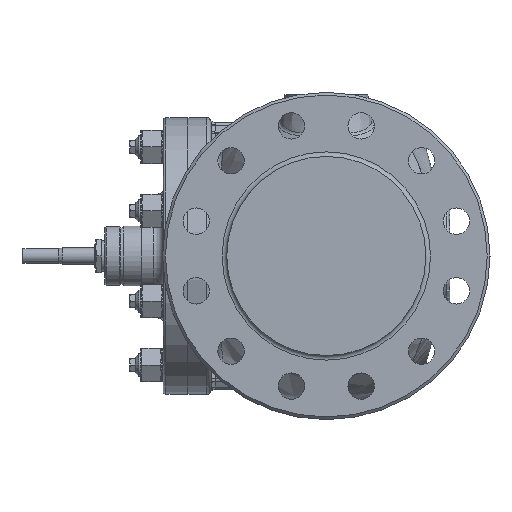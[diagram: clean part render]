
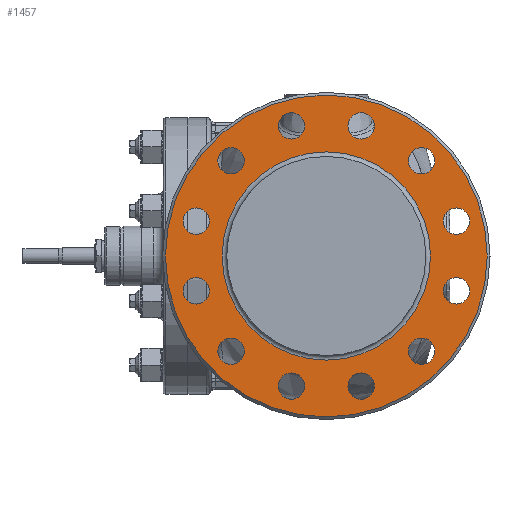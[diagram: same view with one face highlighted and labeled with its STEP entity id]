
A CAD part, left-side view. The second image highlights one B-rep face of the part: STEP entity #1457.
In plain terms, the highlighted planar face has unit normal (-1, 0, 0).
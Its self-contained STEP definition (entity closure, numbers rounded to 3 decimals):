
#572=FACE_BOUND('',#2735,.T.);
#573=FACE_BOUND('',#2736,.T.);
#574=FACE_BOUND('',#2737,.T.);
#575=FACE_BOUND('',#2738,.T.);
#576=FACE_BOUND('',#2739,.T.);
#577=FACE_BOUND('',#2740,.T.);
#578=FACE_BOUND('',#2741,.T.);
#579=FACE_BOUND('',#2742,.T.);
#580=FACE_BOUND('',#2743,.T.);
#581=FACE_BOUND('',#2744,.T.);
#582=FACE_BOUND('',#2745,.T.);
#583=FACE_BOUND('',#2746,.T.);
#584=FACE_BOUND('',#2747,.T.);
#585=FACE_BOUND('',#2748,.T.);
#1457=ADVANCED_FACE('',(#572,#573,#574,#575,#576,#577,#578,#579,#580,#581,
#582,#583,#584,#585),#2051,.T.);
#2051=PLANE('',#9057);
#2735=EDGE_LOOP('',(#4228));
#2736=EDGE_LOOP('',(#4229));
#2737=EDGE_LOOP('',(#4230));
#2738=EDGE_LOOP('',(#4231));
#2739=EDGE_LOOP('',(#4232));
#2740=EDGE_LOOP('',(#4233));
#2741=EDGE_LOOP('',(#4234));
#2742=EDGE_LOOP('',(#4235));
#2743=EDGE_LOOP('',(#4236));
#2744=EDGE_LOOP('',(#4237));
#2745=EDGE_LOOP('',(#4238));
#2746=EDGE_LOOP('',(#4239));
#2747=EDGE_LOOP('',(#4240));
#2748=EDGE_LOOP('',(#4241));
#4228=ORIENTED_EDGE('',*,*,#7387,.T.);
#4229=ORIENTED_EDGE('',*,*,#7388,.F.);
#4230=ORIENTED_EDGE('',*,*,#7389,.F.);
#4231=ORIENTED_EDGE('',*,*,#7390,.F.);
#4232=ORIENTED_EDGE('',*,*,#7391,.F.);
#4233=ORIENTED_EDGE('',*,*,#7392,.F.);
#4234=ORIENTED_EDGE('',*,*,#7393,.F.);
#4235=ORIENTED_EDGE('',*,*,#7394,.F.);
#4236=ORIENTED_EDGE('',*,*,#7395,.F.);
#4237=ORIENTED_EDGE('',*,*,#7396,.F.);
#4238=ORIENTED_EDGE('',*,*,#7397,.F.);
#4239=ORIENTED_EDGE('',*,*,#7398,.F.);
#4240=ORIENTED_EDGE('',*,*,#7399,.F.);
#4241=ORIENTED_EDGE('',*,*,#7400,.T.);
#6578=VERTEX_POINT('',#14455);
#6579=VERTEX_POINT('',#14457);
#6580=VERTEX_POINT('',#14459);
#6581=VERTEX_POINT('',#14461);
#6582=VERTEX_POINT('',#14463);
#6583=VERTEX_POINT('',#14465);
#6584=VERTEX_POINT('',#14467);
#6585=VERTEX_POINT('',#14469);
#6586=VERTEX_POINT('',#14471);
#6587=VERTEX_POINT('',#14473);
#6588=VERTEX_POINT('',#14475);
#6589=VERTEX_POINT('',#14477);
#6590=VERTEX_POINT('',#14479);
#6591=VERTEX_POINT('',#14481);
#7387=EDGE_CURVE('',#6578,#6578,#8493,.T.);
#7388=EDGE_CURVE('',#6579,#6579,#8494,.T.);
#7389=EDGE_CURVE('',#6580,#6580,#8495,.T.);
#7390=EDGE_CURVE('',#6581,#6581,#8496,.T.);
#7391=EDGE_CURVE('',#6582,#6582,#8497,.T.);
#7392=EDGE_CURVE('',#6583,#6583,#8498,.T.);
#7393=EDGE_CURVE('',#6584,#6584,#8499,.T.);
#7394=EDGE_CURVE('',#6585,#6585,#8500,.T.);
#7395=EDGE_CURVE('',#6586,#6586,#8501,.T.);
#7396=EDGE_CURVE('',#6587,#6587,#8502,.T.);
#7397=EDGE_CURVE('',#6588,#6588,#8503,.T.);
#7398=EDGE_CURVE('',#6589,#6589,#8504,.T.);
#7399=EDGE_CURVE('',#6590,#6590,#8505,.T.);
#7400=EDGE_CURVE('',#6591,#6591,#8506,.T.);
#8493=CIRCLE('',#9043,174.5);
#8494=CIRCLE('',#9044,14.3);
#8495=CIRCLE('',#9045,14.3);
#8496=CIRCLE('',#9046,14.3);
#8497=CIRCLE('',#9047,14.3);
#8498=CIRCLE('',#9048,14.3);
#8499=CIRCLE('',#9049,14.3);
#8500=CIRCLE('',#9050,14.3);
#8501=CIRCLE('',#9051,14.3);
#8502=CIRCLE('',#9052,14.3);
#8503=CIRCLE('',#9053,14.3);
#8504=CIRCLE('',#9054,14.3);
#8505=CIRCLE('',#9055,14.3);
#8506=CIRCLE('',#9056,112.95);
#9043=AXIS2_PLACEMENT_3D('',#14454,#10216,#10217);
#9044=AXIS2_PLACEMENT_3D('',#14456,#10218,#10219);
#9045=AXIS2_PLACEMENT_3D('',#14458,#10220,#10221);
#9046=AXIS2_PLACEMENT_3D('',#14460,#10222,#10223);
#9047=AXIS2_PLACEMENT_3D('',#14462,#10224,#10225);
#9048=AXIS2_PLACEMENT_3D('',#14464,#10226,#10227);
#9049=AXIS2_PLACEMENT_3D('',#14466,#10228,#10229);
#9050=AXIS2_PLACEMENT_3D('',#14468,#10230,#10231);
#9051=AXIS2_PLACEMENT_3D('',#14470,#10232,#10233);
#9052=AXIS2_PLACEMENT_3D('',#14472,#10234,#10235);
#9053=AXIS2_PLACEMENT_3D('',#14474,#10236,#10237);
#9054=AXIS2_PLACEMENT_3D('',#14476,#10238,#10239);
#9055=AXIS2_PLACEMENT_3D('',#14478,#10240,#10241);
#9056=AXIS2_PLACEMENT_3D('',#14480,#10242,#10243);
#9057=AXIS2_PLACEMENT_3D('',#14482,#10244,#10245);
#10216=DIRECTION('',(-1.,0.,0.));
#10217=DIRECTION('',(0.,0.,1.));
#10218=DIRECTION('',(-1.,0.,0.));
#10219=DIRECTION('',(0.,0.,1.));
#10220=DIRECTION('',(-1.,0.,0.));
#10221=DIRECTION('',(0.,0.,1.));
#10222=DIRECTION('',(-1.,0.,0.));
#10223=DIRECTION('',(0.,0.,1.));
#10224=DIRECTION('',(-1.,0.,0.));
#10225=DIRECTION('',(0.,0.,1.));
#10226=DIRECTION('',(-1.,0.,0.));
#10227=DIRECTION('',(0.,0.,1.));
#10228=DIRECTION('',(-1.,0.,0.));
#10229=DIRECTION('',(0.,0.,1.));
#10230=DIRECTION('',(-1.,0.,0.));
#10231=DIRECTION('',(0.,0.,1.));
#10232=DIRECTION('',(-1.,0.,0.));
#10233=DIRECTION('',(0.,0.,1.));
#10234=DIRECTION('',(-1.,0.,0.));
#10235=DIRECTION('',(0.,0.,1.));
#10236=DIRECTION('',(-1.,0.,0.));
#10237=DIRECTION('',(0.,0.,1.));
#10238=DIRECTION('',(-1.,0.,0.));
#10239=DIRECTION('',(0.,0.,1.));
#10240=DIRECTION('',(-1.,0.,0.));
#10241=DIRECTION('',(0.,0.,1.));
#10242=DIRECTION('',(1.,0.,0.));
#10243=DIRECTION('',(0.,0.,1.));
#10244=DIRECTION('',(-1.,0.,0.));
#10245=DIRECTION('',(0.,0.,1.));
#14454=CARTESIAN_POINT('',(-247.,0.,0.));
#14455=CARTESIAN_POINT('',(-247.,0.,174.5));
#14456=CARTESIAN_POINT('',(-247.,103.273,103.273));
#14457=CARTESIAN_POINT('',(-247.,103.273,117.573));
#14458=CARTESIAN_POINT('',(-247.,37.801,141.073));
#14459=CARTESIAN_POINT('',(-247.,37.801,155.373));
#14460=CARTESIAN_POINT('',(-247.,-37.801,141.073));
#14461=CARTESIAN_POINT('',(-247.,-37.801,155.373));
#14462=CARTESIAN_POINT('',(-247.,-103.273,103.273));
#14463=CARTESIAN_POINT('',(-247.,-103.273,117.573));
#14464=CARTESIAN_POINT('',(-247.,-141.073,37.801));
#14465=CARTESIAN_POINT('',(-247.,-141.073,52.101));
#14466=CARTESIAN_POINT('',(-247.,-141.073,-37.801));
#14467=CARTESIAN_POINT('',(-247.,-141.073,-23.501));
#14468=CARTESIAN_POINT('',(-247.,-103.273,-103.273));
#14469=CARTESIAN_POINT('',(-247.,-103.273,-88.973));
#14470=CARTESIAN_POINT('',(-247.,-37.801,-141.073));
#14471=CARTESIAN_POINT('',(-247.,-37.801,-126.773));
#14472=CARTESIAN_POINT('',(-247.,37.801,-141.073));
#14473=CARTESIAN_POINT('',(-247.,37.801,-126.773));
#14474=CARTESIAN_POINT('',(-247.,103.273,-103.273));
#14475=CARTESIAN_POINT('',(-247.,103.273,-88.973));
#14476=CARTESIAN_POINT('',(-247.,141.073,-37.801));
#14477=CARTESIAN_POINT('',(-247.,141.073,-23.501));
#14478=CARTESIAN_POINT('',(-247.,141.073,37.801));
#14479=CARTESIAN_POINT('',(-247.,141.073,52.101));
#14480=CARTESIAN_POINT('',(-247.,0.,0.));
#14481=CARTESIAN_POINT('',(-247.,0.,112.95));
#14482=CARTESIAN_POINT('',(-247.,177.5,0.));
